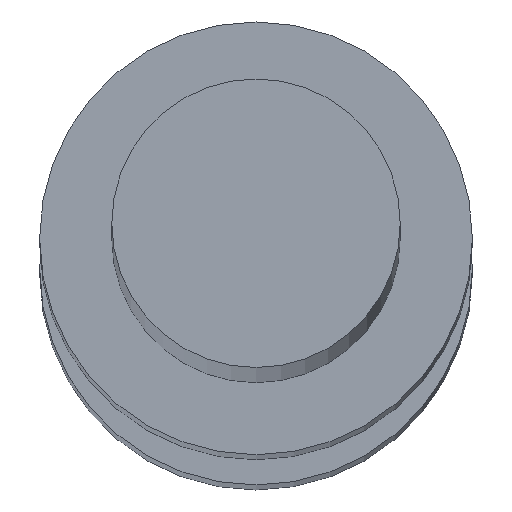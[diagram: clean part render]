
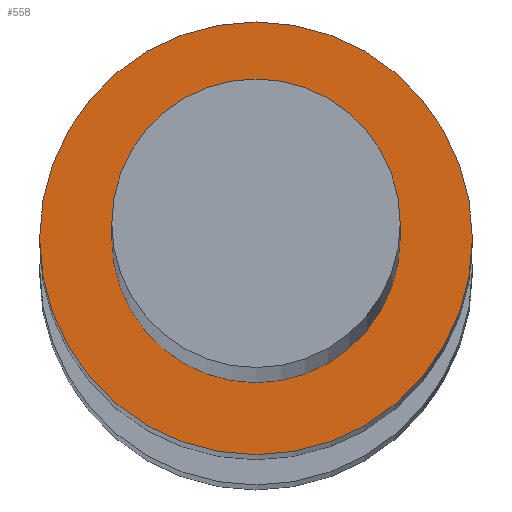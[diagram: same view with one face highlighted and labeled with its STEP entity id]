
A CAD part, top view. The second image highlights one B-rep face of the part: STEP entity #558.
In plain terms, the highlighted planar face has unit normal (0, 0, 1).
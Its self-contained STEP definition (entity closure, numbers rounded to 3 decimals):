
#88 = DIRECTION ( 'NONE',  ( 1., 0., 0. ) ) ;
#118 = EDGE_LOOP ( 'NONE', ( #523, #1827 ) ) ;
#128 = VERTEX_POINT ( 'NONE', #706 ) ;
#175 = ORIENTED_EDGE ( 'NONE', *, *, #1351, .F. ) ;
#182 = CARTESIAN_POINT ( 'NONE',  ( 0., 0., 10. ) ) ;
#199 = VERTEX_POINT ( 'NONE', #588 ) ;
#290 = VERTEX_POINT ( 'NONE', #494 ) ;
#411 = DIRECTION ( 'NONE',  ( 0., 0., 1. ) ) ;
#494 = CARTESIAN_POINT ( 'NONE',  ( 0.75, 0., 10. ) ) ;
#523 = ORIENTED_EDGE ( 'NONE', *, *, #1605, .T. ) ;
#558 = ADVANCED_FACE ( 'NONE', ( #1053, #790 ), #1371, .T. ) ;
#569 = ORIENTED_EDGE ( 'NONE', *, *, #1246, .F. ) ;
#588 = CARTESIAN_POINT ( 'NONE',  ( -0.75, 0., 10. ) ) ;
#644 = CARTESIAN_POINT ( 'NONE',  ( 0., 0., 10. ) ) ;
#706 = CARTESIAN_POINT ( 'NONE',  ( 0.5, 0., 10. ) ) ;
#711 = DIRECTION ( 'NONE',  ( 0., 0., 1. ) ) ;
#790 = FACE_OUTER_BOUND ( 'NONE', #118, .T. ) ;
#796 = DIRECTION ( 'NONE',  ( 0., 0., 1. ) ) ;
#803 = CARTESIAN_POINT ( 'NONE',  ( 0., 0., 10. ) ) ;
#817 = AXIS2_PLACEMENT_3D ( 'NONE', #182, #796, #1075 ) ;
#932 = AXIS2_PLACEMENT_3D ( 'NONE', #803, #1398, #998 ) ;
#998 = DIRECTION ( 'NONE',  ( 1., 0., 0. ) ) ;
#1000 = DIRECTION ( 'NONE',  ( 1., 0., 0. ) ) ;
#1029 = CARTESIAN_POINT ( 'NONE',  ( 0., 0., 10. ) ) ;
#1053 = FACE_BOUND ( 'NONE', #1312, .T. ) ;
#1075 = DIRECTION ( 'NONE',  ( 1., 0., 0. ) ) ;
#1127 = CARTESIAN_POINT ( 'NONE',  ( -0.5, 0., 10. ) ) ;
#1134 = AXIS2_PLACEMENT_3D ( 'NONE', #1029, #411, #88 ) ;
#1143 = DIRECTION ( 'NONE',  ( 0., 0., 1. ) ) ;
#1165 = EDGE_CURVE ( 'NONE', #290, #199, #1698, .T. ) ;
#1246 = EDGE_CURVE ( 'NONE', #128, #1594, #1618, .T. ) ;
#1312 = EDGE_LOOP ( 'NONE', ( #175, #569 ) ) ;
#1313 = DIRECTION ( 'NONE',  ( 1., 0., 0. ) ) ;
#1351 = EDGE_CURVE ( 'NONE', #1594, #128, #1701, .T. ) ;
#1371 = PLANE ( 'NONE',  #817 ) ;
#1398 = DIRECTION ( 'NONE',  ( 0., 0., 1. ) ) ;
#1402 = CIRCLE ( 'NONE', #1556, 0.75 ) ;
#1556 = AXIS2_PLACEMENT_3D ( 'NONE', #644, #1143, #1000 ) ;
#1594 = VERTEX_POINT ( 'NONE', #1127 ) ;
#1605 = EDGE_CURVE ( 'NONE', #199, #290, #1402, .T. ) ;
#1618 = CIRCLE ( 'NONE', #1134, 0.5 ) ;
#1698 = CIRCLE ( 'NONE', #932, 0.75 ) ;
#1701 = CIRCLE ( 'NONE', #1924, 0.5 ) ;
#1747 = CARTESIAN_POINT ( 'NONE',  ( 0., 0., 10. ) ) ;
#1827 = ORIENTED_EDGE ( 'NONE', *, *, #1165, .T. ) ;
#1924 = AXIS2_PLACEMENT_3D ( 'NONE', #1747, #711, #1313 ) ;
